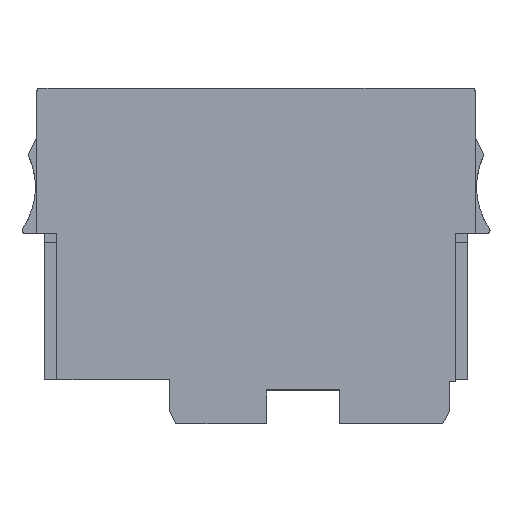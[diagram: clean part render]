
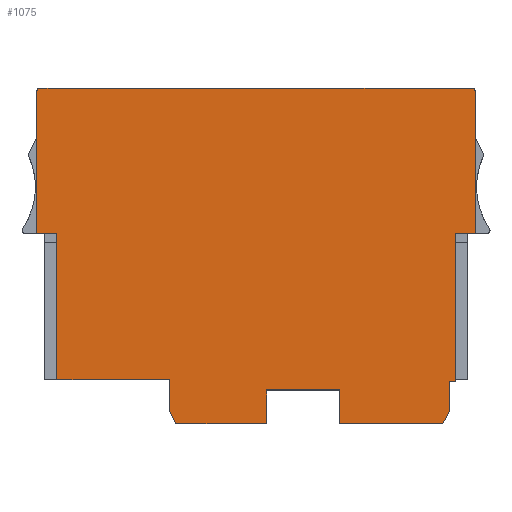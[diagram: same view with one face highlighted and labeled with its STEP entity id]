
A CAD part, top view. The second image highlights one B-rep face of the part: STEP entity #1075.
In plain terms, the highlighted planar face has unit normal (0, 0, 1).
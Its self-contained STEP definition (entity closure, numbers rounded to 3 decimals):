
#320=CARTESIAN_POINT('',(-24.65,27.69,6.25));
#321=VERTEX_POINT('',#320);
#347=CARTESIAN_POINT('',(-24.65,27.7,6.25));
#348=VERTEX_POINT('',#347);
#355=CARTESIAN_POINT('',(-24.65,27.69,6.25));
#356=DIRECTION('',(0.0,1.0,0.0));
#357=VECTOR('',#356,0.01);
#358=LINE('',#355,#357);
#359=EDGE_CURVE('',#321,#348,#358,.T.);
#373=CARTESIAN_POINT('',(21.95,27.69,6.25));
#374=VERTEX_POINT('',#373);
#375=CARTESIAN_POINT('',(21.95,27.69,6.25));
#376=DIRECTION('',(-1.0,0.0,0.0));
#377=VECTOR('',#376,46.6);
#378=LINE('',#375,#377);
#379=EDGE_CURVE('',#374,#321,#378,.T.);
#409=CARTESIAN_POINT('',(21.95,27.7,6.25));
#410=VERTEX_POINT('',#409);
#411=CARTESIAN_POINT('',(21.95,27.7,6.25));
#412=DIRECTION('',(0.0,-1.0,0.0));
#413=VECTOR('',#412,0.01);
#414=LINE('',#411,#413);
#415=EDGE_CURVE('',#410,#374,#414,.T.);
#847=CARTESIAN_POINT('',(31.85,-25.7,6.25));
#848=VERTEX_POINT('',#847);
#849=CARTESIAN_POINT('',(30.85,-27.7,6.25));
#850=VERTEX_POINT('',#849);
#851=CARTESIAN_POINT('',(31.85,-25.7,6.25));
#852=DIRECTION('',(-0.447,-0.894,0.0));
#853=VECTOR('',#852,2.236);
#854=LINE('',#851,#853);
#855=EDGE_CURVE('',#848,#850,#854,.T.);
#888=CARTESIAN_POINT('',(13.85,-27.7,6.25));
#889=VERTEX_POINT('',#888);
#890=CARTESIAN_POINT('',(30.85,-27.7,6.25));
#891=DIRECTION('',(-1.0,0.0,0.0));
#892=VECTOR('',#891,17.);
#893=LINE('',#890,#892);
#894=EDGE_CURVE('',#850,#889,#893,.T.);
#913=CARTESIAN_POINT('',(0.,0.,6.25));
#914=DIRECTION('',(0.0,0.0,1.0));
#915=DIRECTION('',(1.0,0.0,0.0));
#916=AXIS2_PLACEMENT_3D('',#913,#914,#915);
#917=PLANE('',#916);
#918=ORIENTED_EDGE('',*,*,#855,.F.);
#919=CARTESIAN_POINT('',(31.85,-20.7,6.25));
#920=VERTEX_POINT('',#919);
#921=CARTESIAN_POINT('',(31.85,-25.7,6.25));
#922=DIRECTION('',(0.0,1.0,0.0));
#923=VECTOR('',#922,5.0);
#924=LINE('',#921,#923);
#925=EDGE_CURVE('',#848,#920,#924,.T.);
#926=ORIENTED_EDGE('',*,*,#925,.T.);
#927=CARTESIAN_POINT('',(32.85,-20.7,6.25));
#928=VERTEX_POINT('',#927);
#929=CARTESIAN_POINT('',(31.85,-20.7,6.25));
#930=DIRECTION('',(1.0,0.0,0.0));
#931=VECTOR('',#930,1.);
#932=LINE('',#929,#931);
#933=EDGE_CURVE('',#920,#928,#932,.T.);
#934=ORIENTED_EDGE('',*,*,#933,.T.);
#935=CARTESIAN_POINT('',(32.85,3.7,6.25));
#936=VERTEX_POINT('',#935);
#937=CARTESIAN_POINT('',(32.85,-20.7,6.25));
#938=DIRECTION('',(0.0,1.0,0.0));
#939=VECTOR('',#938,24.4);
#940=LINE('',#937,#939);
#941=EDGE_CURVE('',#928,#936,#940,.T.);
#942=ORIENTED_EDGE('',*,*,#941,.T.);
#943=CARTESIAN_POINT('',(36.15,3.7,6.25));
#944=VERTEX_POINT('',#943);
#945=CARTESIAN_POINT('',(32.85,3.7,6.25));
#946=DIRECTION('',(1.0,0.0,0.0));
#947=VECTOR('',#946,3.3);
#948=LINE('',#945,#947);
#949=EDGE_CURVE('',#936,#944,#948,.T.);
#950=ORIENTED_EDGE('',*,*,#949,.T.);
#951=CARTESIAN_POINT('',(36.15,27.2,6.25));
#952=VERTEX_POINT('',#951);
#953=CARTESIAN_POINT('',(36.15,27.2,6.25));
#954=DIRECTION('',(0.0,-1.0,0.0));
#955=VECTOR('',#954,23.5);
#956=LINE('',#953,#955);
#957=EDGE_CURVE('',#952,#944,#956,.T.);
#958=ORIENTED_EDGE('',*,*,#957,.F.);
#959=CARTESIAN_POINT('',(35.65,27.7,6.25));
#960=VERTEX_POINT('',#959);
#961=CARTESIAN_POINT('',(35.65,27.2,6.25));
#962=DIRECTION('',(0.0,0.0,-1.));
#963=DIRECTION('',(0.707,0.707,0.0));
#964=AXIS2_PLACEMENT_3D('',#961,#962,#963);
#965=CIRCLE('',#964,0.5);
#966=EDGE_CURVE('',#960,#952,#965,.T.);
#967=ORIENTED_EDGE('',*,*,#966,.F.);
#968=CARTESIAN_POINT('',(21.95,27.7,6.25));
#969=DIRECTION('',(1.0,0.0,0.0));
#970=VECTOR('',#969,13.7);
#971=LINE('',#968,#970);
#972=EDGE_CURVE('',#410,#960,#971,.T.);
#973=ORIENTED_EDGE('',*,*,#972,.F.);
#974=ORIENTED_EDGE('',*,*,#415,.T.);
#975=ORIENTED_EDGE('',*,*,#379,.T.);
#976=ORIENTED_EDGE('',*,*,#359,.T.);
#977=CARTESIAN_POINT('',(-35.65,27.7,6.25));
#978=VERTEX_POINT('',#977);
#979=CARTESIAN_POINT('',(-24.65,27.7,6.25));
#980=DIRECTION('',(-1.0,0.0,0.0));
#981=VECTOR('',#980,11.);
#982=LINE('',#979,#981);
#983=EDGE_CURVE('',#348,#978,#982,.T.);
#984=ORIENTED_EDGE('',*,*,#983,.T.);
#985=CARTESIAN_POINT('',(-36.15,27.2,6.25));
#986=VERTEX_POINT('',#985);
#987=CARTESIAN_POINT('',(-35.65,27.2,6.25));
#988=DIRECTION('',(0.0,0.0,-1.));
#989=DIRECTION('',(-0.707,0.707,0.0));
#990=AXIS2_PLACEMENT_3D('',#987,#988,#989);
#991=CIRCLE('',#990,0.5);
#992=EDGE_CURVE('',#986,#978,#991,.T.);
#993=ORIENTED_EDGE('',*,*,#992,.F.);
#994=CARTESIAN_POINT('',(-36.15,3.7,6.25));
#995=VERTEX_POINT('',#994);
#996=CARTESIAN_POINT('',(-36.15,3.7,6.25));
#997=DIRECTION('',(0.0,1.0,0.0));
#998=VECTOR('',#997,23.5);
#999=LINE('',#996,#998);
#1000=EDGE_CURVE('',#995,#986,#999,.T.);
#1001=ORIENTED_EDGE('',*,*,#1000,.F.);
#1002=CARTESIAN_POINT('',(-32.85,3.7,6.25));
#1003=VERTEX_POINT('',#1002);
#1004=CARTESIAN_POINT('',(-36.15,3.7,6.25));
#1005=DIRECTION('',(1.0,0.0,0.0));
#1006=VECTOR('',#1005,3.3);
#1007=LINE('',#1004,#1006);
#1008=EDGE_CURVE('',#995,#1003,#1007,.T.);
#1009=ORIENTED_EDGE('',*,*,#1008,.T.);
#1010=CARTESIAN_POINT('',(-32.85,-20.4,6.25));
#1011=VERTEX_POINT('',#1010);
#1012=CARTESIAN_POINT('',(-32.85,3.7,6.25));
#1013=DIRECTION('',(0.0,-1.0,0.0));
#1014=VECTOR('',#1013,24.1);
#1015=LINE('',#1012,#1014);
#1016=EDGE_CURVE('',#1003,#1011,#1015,.T.);
#1017=ORIENTED_EDGE('',*,*,#1016,.T.);
#1018=CARTESIAN_POINT('',(-14.25,-20.4,6.25));
#1019=VERTEX_POINT('',#1018);
#1020=CARTESIAN_POINT('',(-32.85,-20.4,6.25));
#1021=DIRECTION('',(1.0,0.0,0.0));
#1022=VECTOR('',#1021,18.6);
#1023=LINE('',#1020,#1022);
#1024=EDGE_CURVE('',#1011,#1019,#1023,.T.);
#1025=ORIENTED_EDGE('',*,*,#1024,.T.);
#1026=CARTESIAN_POINT('',(-14.25,-25.7,6.25));
#1027=VERTEX_POINT('',#1026);
#1028=CARTESIAN_POINT('',(-14.25,-20.4,6.25));
#1029=DIRECTION('',(0.0,-1.0,0.0));
#1030=VECTOR('',#1029,5.3);
#1031=LINE('',#1028,#1030);
#1032=EDGE_CURVE('',#1019,#1027,#1031,.T.);
#1033=ORIENTED_EDGE('',*,*,#1032,.T.);
#1034=CARTESIAN_POINT('',(-13.25,-27.7,6.25));
#1035=VERTEX_POINT('',#1034);
#1036=CARTESIAN_POINT('',(-13.25,-27.7,6.25));
#1037=DIRECTION('',(-0.447,0.894,0.0));
#1038=VECTOR('',#1037,2.236);
#1039=LINE('',#1036,#1038);
#1040=EDGE_CURVE('',#1035,#1027,#1039,.T.);
#1041=ORIENTED_EDGE('',*,*,#1040,.F.);
#1042=CARTESIAN_POINT('',(1.75,-27.7,6.25));
#1043=VERTEX_POINT('',#1042);
#1044=CARTESIAN_POINT('',(1.75,-27.7,6.25));
#1045=DIRECTION('',(-1.0,0.0,0.0));
#1046=VECTOR('',#1045,15.);
#1047=LINE('',#1044,#1046);
#1048=EDGE_CURVE('',#1043,#1035,#1047,.T.);
#1049=ORIENTED_EDGE('',*,*,#1048,.F.);
#1050=CARTESIAN_POINT('',(1.75,-22.1,6.25));
#1051=VERTEX_POINT('',#1050);
#1052=CARTESIAN_POINT('',(1.75,-27.7,6.25));
#1053=DIRECTION('',(0.0,1.0,0.0));
#1054=VECTOR('',#1053,5.6);
#1055=LINE('',#1052,#1054);
#1056=EDGE_CURVE('',#1043,#1051,#1055,.T.);
#1057=ORIENTED_EDGE('',*,*,#1056,.T.);
#1058=CARTESIAN_POINT('',(13.85,-22.1,6.25));
#1059=VERTEX_POINT('',#1058);
#1060=CARTESIAN_POINT('',(1.75,-22.1,6.25));
#1061=DIRECTION('',(1.0,0.0,0.0));
#1062=VECTOR('',#1061,12.1);
#1063=LINE('',#1060,#1062);
#1064=EDGE_CURVE('',#1051,#1059,#1063,.T.);
#1065=ORIENTED_EDGE('',*,*,#1064,.T.);
#1066=CARTESIAN_POINT('',(13.85,-22.1,6.25));
#1067=DIRECTION('',(0.0,-1.0,0.0));
#1068=VECTOR('',#1067,5.6);
#1069=LINE('',#1066,#1068);
#1070=EDGE_CURVE('',#1059,#889,#1069,.T.);
#1071=ORIENTED_EDGE('',*,*,#1070,.T.);
#1072=ORIENTED_EDGE('',*,*,#894,.F.);
#1073=EDGE_LOOP('',(#918,#926,#934,#942,#950,#958,#967,#973,#974,#975,#976,#984,#993,#1001,#1009,#1017,#1025,#1033,#1041,#1049,#1057,#1065,#1071,#1072));
#1074=FACE_OUTER_BOUND('',#1073,.T.);
#1075=ADVANCED_FACE('',(#1074),#917,.T.);
